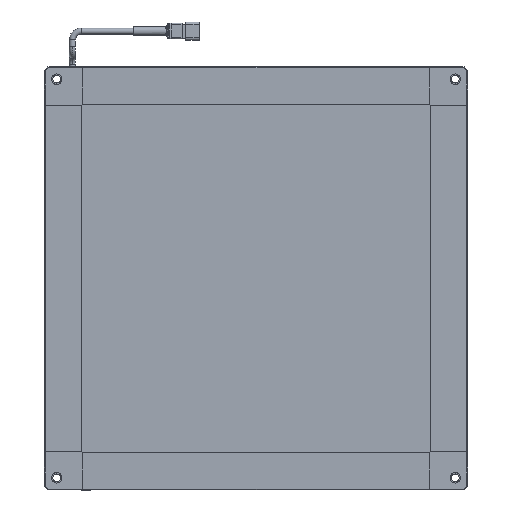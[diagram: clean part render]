
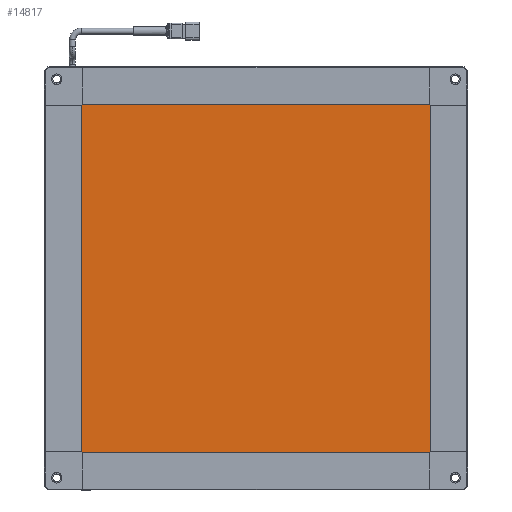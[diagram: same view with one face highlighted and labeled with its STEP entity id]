
A CAD part, front view. The second image highlights one B-rep face of the part: STEP entity #14817.
In plain terms, the highlighted planar face has unit normal (0, -1, 0).
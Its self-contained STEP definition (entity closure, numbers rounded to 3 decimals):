
#102 = DIRECTION ( 'NONE',  ( 0., 0., 1. ) ) ;
#845 = VERTEX_POINT ( 'NONE', #1151 ) ;
#1151 = CARTESIAN_POINT ( 'NONE',  ( -103., -2.5, 103. ) ) ;
#1863 = CARTESIAN_POINT ( 'NONE',  ( -103., -2.5, -103. ) ) ;
#1997 = EDGE_CURVE ( 'NONE', #845, #17066, #10760, .T. ) ;
#2190 = EDGE_LOOP ( 'NONE', ( #17706, #14970, #10134, #14167 ) ) ;
#2635 = EDGE_CURVE ( 'NONE', #17066, #5296, #7943, .T. ) ;
#3423 = VECTOR ( 'NONE', #10534, 1000. ) ;
#4874 = FACE_OUTER_BOUND ( 'NONE', #2190, .T. ) ;
#5296 = VERTEX_POINT ( 'NONE', #17683 ) ;
#5544 = LINE ( 'NONE', #11706, #15475 ) ;
#6569 = CARTESIAN_POINT ( 'NONE',  ( -103., -2.5, 103. ) ) ;
#7571 = EDGE_CURVE ( 'NONE', #5296, #10414, #5544, .T. ) ;
#7601 = CARTESIAN_POINT ( 'NONE',  ( 103., -2.5, -103. ) ) ;
#7943 = LINE ( 'NONE', #7601, #11519 ) ;
#8216 = DIRECTION ( 'NONE',  ( -1., 0., 0. ) ) ;
#9740 = LINE ( 'NONE', #1863, #13085 ) ;
#10134 = ORIENTED_EDGE ( 'NONE', *, *, #2635, .F. ) ;
#10414 = VERTEX_POINT ( 'NONE', #13111 ) ;
#10463 = EDGE_CURVE ( 'NONE', #10414, #845, #9740, .T. ) ;
#10534 = DIRECTION ( 'NONE',  ( 1., 0., 0. ) ) ;
#10760 = LINE ( 'NONE', #12328, #3423 ) ;
#11519 = VECTOR ( 'NONE', #15516, 1000. ) ;
#11706 = CARTESIAN_POINT ( 'NONE',  ( 103., -2.5, -103. ) ) ;
#12328 = CARTESIAN_POINT ( 'NONE',  ( 103., -2.5, 103. ) ) ;
#13085 = VECTOR ( 'NONE', #102, 1000. ) ;
#13111 = CARTESIAN_POINT ( 'NONE',  ( -103., -2.5, -103. ) ) ;
#14167 = ORIENTED_EDGE ( 'NONE', *, *, #1997, .F. ) ;
#14484 = PLANE ( 'NONE',  #18919 ) ;
#14696 = DIRECTION ( 'NONE',  ( 0., -1., 0. ) ) ;
#14817 = ADVANCED_FACE ( 'NONE', ( #4874 ), #14484, .T. ) ;
#14970 = ORIENTED_EDGE ( 'NONE', *, *, #7571, .F. ) ;
#15475 = VECTOR ( 'NONE', #18061, 1000. ) ;
#15516 = DIRECTION ( 'NONE',  ( 0., 0., -1. ) ) ;
#17066 = VERTEX_POINT ( 'NONE', #20534 ) ;
#17683 = CARTESIAN_POINT ( 'NONE',  ( 103., -2.5, -103. ) ) ;
#17706 = ORIENTED_EDGE ( 'NONE', *, *, #10463, .F. ) ;
#18061 = DIRECTION ( 'NONE',  ( -1., 0., 0. ) ) ;
#18919 = AXIS2_PLACEMENT_3D ( 'NONE', #6569, #14696, #8216 ) ;
#20534 = CARTESIAN_POINT ( 'NONE',  ( 103., -2.5, 103. ) ) ;
